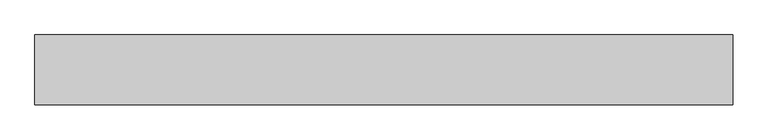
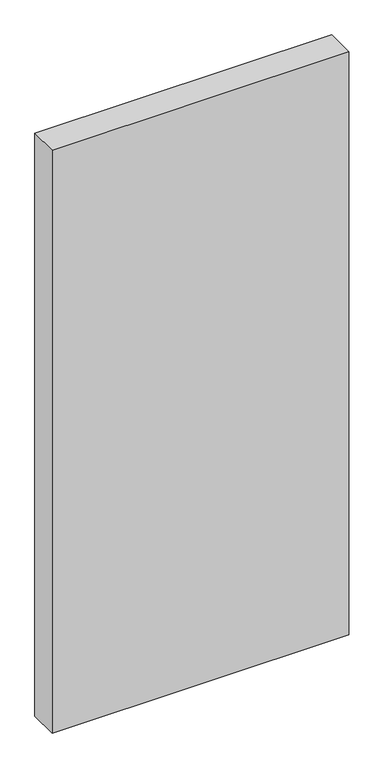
"""IFC4 building model written with IfcOpenShell, lengths in millimetres: proxy geometry."""

from ifc_helpers import new_model, si_unit, origin, origin_with_axes, place, context, project, spatial, polyline, outline, extrude, source, transform, mapped, element, save


def generic_models_71f0b9a5(model_context):
    return source(origin(), model_context, "Body", "SweptSolid", [
        extrude(outline(polyline([(1000.0, 0.0), (0.0, 0.0), (0.0, 100.0), (1000.0, 100.0), (1000.0, 0.0)])), origin_with_axes(), (0.0, 0.0, 1.0), 2075.0),
    ])


if __name__ == "__main__":
    model = new_model("IFC4")
    model_context = context("Model", 3, world=origin())
    ifc_project = project(units=[si_unit("LENGTHUNIT", "METRE", prefix="MILLI")], contexts=[model_context])
    site = spatial("IfcSite", under=ifc_project)
    building = spatial("IfcBuilding", under=site)
    placement = place(None, origin())
    generic_models_shape = generic_models_71f0b9a5(model_context)
    element("IfcBuildingElementProxy", 1, Name="Generic Models", at=placement, inside=building, context=model_context, shape_type="MappedRepresentation", body=[
        mapped(generic_models_shape, transform((0.0, 0.0, 0.0), x_axis=(1.0, 0.0, 0.0), y_axis=(0.0, 1.0, 0.0), z_axis=(0.0, 0.0, 1.0))),
    ])
    save(model, "model.ifc")
